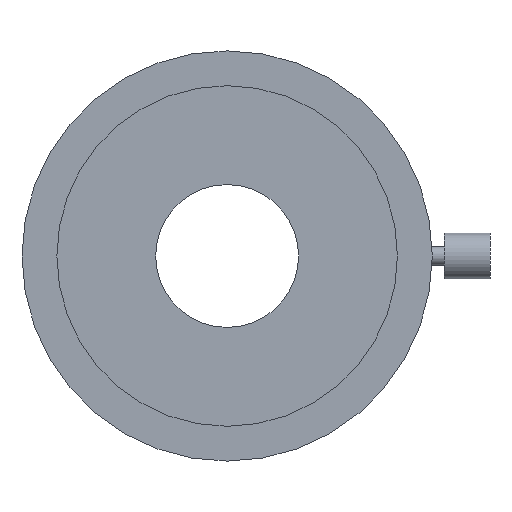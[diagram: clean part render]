
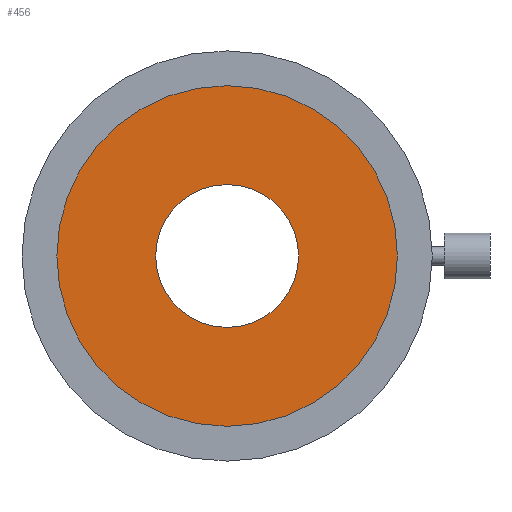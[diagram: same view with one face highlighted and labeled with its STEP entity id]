
A CAD part, front view. The second image highlights one B-rep face of the part: STEP entity #456.
In plain terms, the highlighted planar face has unit normal (0, -1, 0).
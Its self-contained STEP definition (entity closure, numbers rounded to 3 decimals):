
#62 = ORIENTED_EDGE ( 'NONE', *, *, #832, .F. ) ;
#162 = DIRECTION ( 'NONE',  ( 1., 0., 0. ) ) ;
#185 = AXIS2_PLACEMENT_3D ( 'NONE', #1146, #605, #1054 ) ;
#192 = DIRECTION ( 'NONE',  ( 1., 0., 0. ) ) ;
#243 = ORIENTED_EDGE ( 'NONE', *, *, #875, .F. ) ;
#244 = EDGE_CURVE ( 'NONE', #819, #1127, #560, .T. ) ;
#275 = CARTESIAN_POINT ( 'NONE',  ( 0., 2.6, 0. ) ) ;
#345 = DIRECTION ( 'NONE',  ( 0., -1., 0. ) ) ;
#384 = DIRECTION ( 'NONE',  ( 0., -1., 0. ) ) ;
#439 = VERTEX_POINT ( 'NONE', #932 ) ;
#456 = ADVANCED_FACE ( 'NONE', ( #739, #1094 ), #638, .T. ) ;
#465 = CIRCLE ( 'NONE', #763, 14.9 ) ;
#514 = CARTESIAN_POINT ( 'NONE',  ( 0., 2.6, 0. ) ) ;
#555 = DIRECTION ( 'NONE',  ( 1., 0., 0. ) ) ;
#560 = CIRCLE ( 'NONE', #711, 14.9 ) ;
#605 = DIRECTION ( 'NONE',  ( 0., -1., 0. ) ) ;
#638 = PLANE ( 'NONE',  #984 ) ;
#640 = CARTESIAN_POINT ( 'NONE',  ( -14.9, 2.6, 0. ) ) ;
#658 = EDGE_LOOP ( 'NONE', ( #62, #243 ) ) ;
#664 = EDGE_CURVE ( 'NONE', #1127, #819, #465, .T. ) ;
#686 = DIRECTION ( 'NONE',  ( 1., 0., 0. ) ) ;
#711 = AXIS2_PLACEMENT_3D ( 'NONE', #275, #724, #192 ) ;
#724 = DIRECTION ( 'NONE',  ( 0., -1., 0. ) ) ;
#735 = CIRCLE ( 'NONE', #185, 6.25 ) ;
#739 = FACE_OUTER_BOUND ( 'NONE', #851, .T. ) ;
#763 = AXIS2_PLACEMENT_3D ( 'NONE', #1047, #1144, #162 ) ;
#768 = VERTEX_POINT ( 'NONE', #968 ) ;
#819 = VERTEX_POINT ( 'NONE', #885 ) ;
#824 = AXIS2_PLACEMENT_3D ( 'NONE', #514, #345, #686 ) ;
#832 = EDGE_CURVE ( 'NONE', #768, #439, #1131, .T. ) ;
#851 = EDGE_LOOP ( 'NONE', ( #981, #931 ) ) ;
#875 = EDGE_CURVE ( 'NONE', #439, #768, #735, .T. ) ;
#885 = CARTESIAN_POINT ( 'NONE',  ( 14.9, 2.6, 0. ) ) ;
#912 = CARTESIAN_POINT ( 'NONE',  ( 6.25, 2.6, 0. ) ) ;
#931 = ORIENTED_EDGE ( 'NONE', *, *, #664, .T. ) ;
#932 = CARTESIAN_POINT ( 'NONE',  ( -6.25, 2.6, 0. ) ) ;
#968 = CARTESIAN_POINT ( 'NONE',  ( 6.25, 2.6, 0. ) ) ;
#981 = ORIENTED_EDGE ( 'NONE', *, *, #244, .T. ) ;
#984 = AXIS2_PLACEMENT_3D ( 'NONE', #912, #384, #555 ) ;
#1047 = CARTESIAN_POINT ( 'NONE',  ( 0., 2.6, 0. ) ) ;
#1054 = DIRECTION ( 'NONE',  ( 1., 0., 0. ) ) ;
#1094 = FACE_BOUND ( 'NONE', #658, .T. ) ;
#1127 = VERTEX_POINT ( 'NONE', #640 ) ;
#1131 = CIRCLE ( 'NONE', #824, 6.25 ) ;
#1144 = DIRECTION ( 'NONE',  ( 0., -1., 0. ) ) ;
#1146 = CARTESIAN_POINT ( 'NONE',  ( 0., 2.6, 0. ) ) ;
